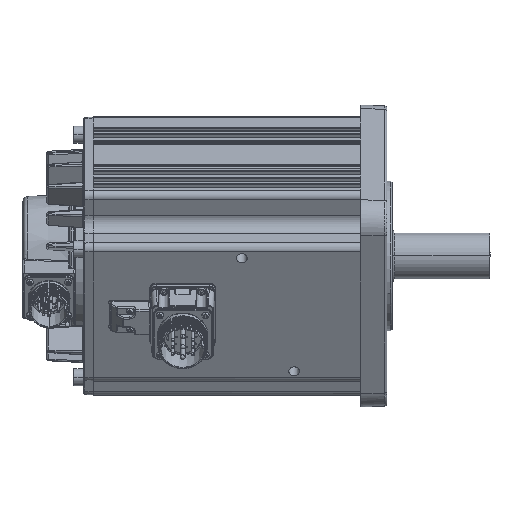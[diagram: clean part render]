
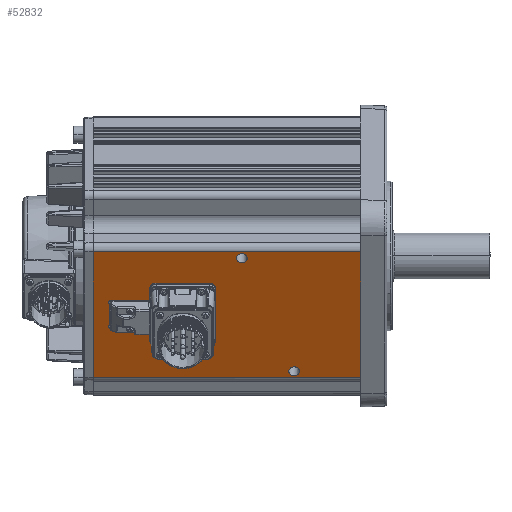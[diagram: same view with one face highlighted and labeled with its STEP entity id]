
A CAD part, left-side view. The second image highlights one B-rep face of the part: STEP entity #52832.
In plain terms, the highlighted planar face has unit normal (-0.866, 0, -0.5).
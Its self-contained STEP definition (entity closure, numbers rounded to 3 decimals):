
#2545=DIRECTION('',(0.5,0.,-0.866));
#2546=VECTOR('',#2545,111.4);
#2547=CARTESIAN_POINT('',(-105.792,-84.55,
79.871));
#2548=LINE('',#2547,#2546);
#2549=DIRECTION('',(-0.5,0.,0.866));
#2550=VECTOR('',#2549,111.407);
#2551=CARTESIAN_POINT('',(-50.091,120.25,
-16.607));
#2552=LINE('',#2551,#2550);
#2553=CARTESIAN_POINT('',(-52.942,-33.55,-11.667));
#2554=DIRECTION('',(-0.866,0.,-0.5));
#2555=DIRECTION('',(0.,1.,0.));
#2556=AXIS2_PLACEMENT_3D('',#2553,#2554,#2555);
#2558=CARTESIAN_POINT('',(-52.942,-33.55,-11.667));
#2559=DIRECTION('',(-0.866,0.,-0.5));
#2560=DIRECTION('',(0.,-1.,0.));
#2561=AXIS2_PLACEMENT_3D('',#2558,#2559,#2560);
#2563=CARTESIAN_POINT('',(-102.942,6.45,74.935));
#2564=DIRECTION('',(-0.866,0.,-0.5));
#2565=DIRECTION('',(0.,1.,0.));
#2566=AXIS2_PLACEMENT_3D('',#2563,#2564,#2565);
#2568=CARTESIAN_POINT('',(-102.942,6.45,74.935));
#2569=DIRECTION('',(-0.866,0.,-0.5));
#2570=DIRECTION('',(0.,-1.,0.));
#2571=AXIS2_PLACEMENT_3D('',#2568,#2569,#2570);
#2573=DIRECTION('',(0.5,0.,-0.866));
#2574=VECTOR('',#2573,19.293);
#2575=CARTESIAN_POINT('',(-82.766,108.09,39.988));
#2576=LINE('',#2575,#2574);
#2577=CARTESIAN_POINT('',(-72.592,106.39,22.367));
#2578=DIRECTION('',(-0.866,0.,-0.5));
#2579=DIRECTION('',(-0.263,0.85,0.456));
#2580=AXIS2_PLACEMENT_3D('',#2577,#2578,#2579);
#2582=DIRECTION('',(0.,-1.,0.));
#2583=VECTOR('',#2582,29.34);
#2584=CARTESIAN_POINT('',(-71.592,106.39,20.635));
#2585=LINE('',#2584,#2583);
#2586=DIRECTION('',(0.5,0.,-0.866));
#2587=VECTOR('',#2586,10.3);
#2588=CARTESIAN_POINT('',(-71.592,77.05,20.635));
#2589=LINE('',#2588,#2587);
#2590=CARTESIAN_POINT('',(-66.442,72.2,11.715));
#2591=DIRECTION('',(-0.866,0.,-0.5));
#2592=DIRECTION('',(0.,1.,0.));
#2593=AXIS2_PLACEMENT_3D('',#2590,#2591,#2592);
#2595=DIRECTION('',(0.,-1.,0.));
#2596=VECTOR('',#2595,40.9);
#2597=CARTESIAN_POINT('',(-64.017,72.2,7.515));
#2598=LINE('',#2597,#2596);
#2599=CARTESIAN_POINT('',(-66.442,31.3,11.715));
#2600=DIRECTION('',(-0.866,0.,-0.5));
#2601=DIRECTION('',(0.5,0.,-0.866));
#2602=AXIS2_PLACEMENT_3D('',#2599,#2600,#2601);
#2604=DIRECTION('',(-0.5,0.,0.866));
#2605=VECTOR('',#2604,46.);
#2606=CARTESIAN_POINT('',(-66.442,26.45,11.715));
#2607=LINE('',#2606,#2605);
#2608=CARTESIAN_POINT('',(-89.442,31.3,51.552));
#2609=DIRECTION('',(-0.866,0.,-0.5));
#2610=DIRECTION('',(0.,-1.,0.));
#2611=AXIS2_PLACEMENT_3D('',#2608,#2609,#2610);
#2613=DIRECTION('',(0.,1.,0.));
#2614=VECTOR('',#2613,40.9);
#2615=CARTESIAN_POINT('',(-91.867,31.3,55.753));
#2616=LINE('',#2615,#2614);
#2617=CARTESIAN_POINT('',(-89.442,72.2,51.552));
#2618=DIRECTION('',(-0.866,0.,-0.5));
#2619=DIRECTION('',(-0.5,0.,0.866));
#2620=AXIS2_PLACEMENT_3D('',#2617,#2618,#2619);
#2622=DIRECTION('',(0.5,0.,-0.866));
#2623=VECTOR('',#2622,10.3);
#2624=CARTESIAN_POINT('',(-89.442,77.05,51.552));
#2625=LINE('',#2624,#2623);
#2626=DIRECTION('',(0.,1.,0.));
#2627=VECTOR('',#2626,29.34);
#2628=CARTESIAN_POINT('',(-84.292,77.05,42.632));
#2629=LINE('',#2628,#2627);
#2630=CARTESIAN_POINT('',(-83.292,106.39,40.9));
#2631=DIRECTION('',(-0.866,0.,-0.5));
#2632=DIRECTION('',(-0.5,0.,0.866));
#2633=AXIS2_PLACEMENT_3D('',#2630,#2631,#2632);
#2635=CARTESIAN_POINT('',(-105.794,120.25,79.874));
#2654=DIRECTION('',(0.,1.,0.));
#2655=VECTOR('',#2654,204.8);
#2656=CARTESIAN_POINT('',(-105.792,-84.55,
79.871));
#2657=LINE('',#2656,#2655);
#2692=DIRECTION('',(0.,-1.,0.));
#2693=VECTOR('',#2692,204.8);
#2694=CARTESIAN_POINT('',(-50.091,120.25,
-16.607));
#2695=LINE('',#2694,#2693);
#44327=CARTESIAN_POINT('',(-52.942,-29.55,-11.667));
#44328=CARTESIAN_POINT('',(-52.942,-37.55,-11.667));
#44329=VERTEX_POINT('',#44327);
#44330=VERTEX_POINT('',#44328);
#44331=CARTESIAN_POINT('',(-102.942,10.45,74.935));
#44332=CARTESIAN_POINT('',(-102.942,2.45,74.935));
#44333=VERTEX_POINT('',#44331);
#44334=VERTEX_POINT('',#44332);
#44335=CARTESIAN_POINT('',(-82.766,108.09,39.988));
#44336=CARTESIAN_POINT('',(-73.119,108.09,23.28));
#44337=VERTEX_POINT('',#44335);
#44338=VERTEX_POINT('',#44336);
#44339=CARTESIAN_POINT('',(-71.592,106.39,20.635));
#44340=VERTEX_POINT('',#44339);
#44341=CARTESIAN_POINT('',(-71.592,77.05,20.635));
#44342=VERTEX_POINT('',#44341);
#44343=CARTESIAN_POINT('',(-66.442,77.05,11.715));
#44344=VERTEX_POINT('',#44343);
#44345=CARTESIAN_POINT('',(-64.017,72.2,7.515));
#44346=VERTEX_POINT('',#44345);
#44347=CARTESIAN_POINT('',(-64.017,31.3,7.515));
#44348=VERTEX_POINT('',#44347);
#44349=CARTESIAN_POINT('',(-66.442,26.45,11.715));
#44350=VERTEX_POINT('',#44349);
#44351=CARTESIAN_POINT('',(-89.442,26.45,51.552));
#44352=VERTEX_POINT('',#44351);
#44353=CARTESIAN_POINT('',(-91.867,31.3,55.753));
#44354=VERTEX_POINT('',#44353);
#44355=CARTESIAN_POINT('',(-91.867,72.2,55.753));
#44356=VERTEX_POINT('',#44355);
#44357=CARTESIAN_POINT('',(-89.442,77.05,51.552));
#44358=VERTEX_POINT('',#44357);
#44359=CARTESIAN_POINT('',(-84.292,77.05,42.632));
#44360=VERTEX_POINT('',#44359);
#44361=CARTESIAN_POINT('',(-84.292,106.39,42.632));
#44362=VERTEX_POINT('',#44361);
#48089=CARTESIAN_POINT('',(-105.792,-84.55,
79.871));
#48090=CARTESIAN_POINT('',(-50.092,-84.55,
-16.604));
#48091=VERTEX_POINT('',#48089);
#48092=VERTEX_POINT('',#48090);
#49313=VERTEX_POINT('',#2635);
#49314=CARTESIAN_POINT('',(-50.091,120.25,
-16.607));
#49315=VERTEX_POINT('',#49314);
#52776=CARTESIAN_POINT('',(-32.942,-84.55,-46.308));
#52777=DIRECTION('',(-0.866,0.,-0.5));
#52778=DIRECTION('',(-0.5,0.,0.866));
#52779=AXIS2_PLACEMENT_3D('',#52776,#52777,#52778);
#52780=PLANE('',#52779);
#52782=ORIENTED_EDGE('',*,*,#52781,.F.);
#52784=ORIENTED_EDGE('',*,*,#52783,.T.);
#52786=ORIENTED_EDGE('',*,*,#52785,.F.);
#52788=ORIENTED_EDGE('',*,*,#52787,.T.);
#52789=EDGE_LOOP('',(#52782,#52784,#52786,#52788));
#52790=FACE_OUTER_BOUND('',#52789,.F.);
#52792=ORIENTED_EDGE('',*,*,#52791,.T.);
#52794=ORIENTED_EDGE('',*,*,#52793,.T.);
#52795=EDGE_LOOP('',(#52792,#52794));
#52796=FACE_BOUND('',#52795,.F.);
#52798=ORIENTED_EDGE('',*,*,#52797,.T.);
#52800=ORIENTED_EDGE('',*,*,#52799,.T.);
#52801=EDGE_LOOP('',(#52798,#52800));
#52802=FACE_BOUND('',#52801,.F.);
#52803=ORIENTED_EDGE('',*,*,#52759,.T.);
#52805=ORIENTED_EDGE('',*,*,#52804,.T.);
#52807=ORIENTED_EDGE('',*,*,#52806,.T.);
#52809=ORIENTED_EDGE('',*,*,#52808,.T.);
#52811=ORIENTED_EDGE('',*,*,#52810,.T.);
#52813=ORIENTED_EDGE('',*,*,#52812,.T.);
#52815=ORIENTED_EDGE('',*,*,#52814,.T.);
#52817=ORIENTED_EDGE('',*,*,#52816,.T.);
#52819=ORIENTED_EDGE('',*,*,#52818,.T.);
#52821=ORIENTED_EDGE('',*,*,#52820,.T.);
#52823=ORIENTED_EDGE('',*,*,#52822,.T.);
#52825=ORIENTED_EDGE('',*,*,#52824,.T.);
#52827=ORIENTED_EDGE('',*,*,#52826,.T.);
#52829=ORIENTED_EDGE('',*,*,#52828,.T.);
#52830=EDGE_LOOP('',(#52803,#52805,#52807,#52809,#52811,#52813,#52815,#52817,
#52819,#52821,#52823,#52825,#52827,#52829));
#52831=FACE_BOUND('',#52830,.F.);
#52832=ADVANCED_FACE('',(#52790,#52796,#52802,#52831),#52780,.T.);
#2557=CIRCLE('',#2556,4.);
#2562=CIRCLE('',#2561,4.);
#2567=CIRCLE('',#2566,4.);
#2572=CIRCLE('',#2571,4.);
#2581=CIRCLE('',#2580,2.);
#2594=CIRCLE('',#2593,4.85);
#2603=CIRCLE('',#2602,4.85);
#2612=CIRCLE('',#2611,4.85);
#2621=CIRCLE('',#2620,4.85);
#2634=CIRCLE('',#2633,2.);
#52759=EDGE_CURVE('',#44337,#44338,#2576,.T.);
#52781=EDGE_CURVE('',#48091,#49313,#2657,.T.);
#52783=EDGE_CURVE('',#48091,#48092,#2548,.T.);
#52785=EDGE_CURVE('',#49315,#48092,#2695,.T.);
#52787=EDGE_CURVE('',#49315,#49313,#2552,.T.);
#52791=EDGE_CURVE('',#44329,#44330,#2557,.T.);
#52793=EDGE_CURVE('',#44330,#44329,#2562,.T.);
#52797=EDGE_CURVE('',#44333,#44334,#2567,.T.);
#52799=EDGE_CURVE('',#44334,#44333,#2572,.T.);
#52804=EDGE_CURVE('',#44338,#44340,#2581,.T.);
#52806=EDGE_CURVE('',#44340,#44342,#2585,.T.);
#52808=EDGE_CURVE('',#44342,#44344,#2589,.T.);
#52810=EDGE_CURVE('',#44344,#44346,#2594,.T.);
#52812=EDGE_CURVE('',#44346,#44348,#2598,.T.);
#52814=EDGE_CURVE('',#44348,#44350,#2603,.T.);
#52816=EDGE_CURVE('',#44350,#44352,#2607,.T.);
#52818=EDGE_CURVE('',#44352,#44354,#2612,.T.);
#52820=EDGE_CURVE('',#44354,#44356,#2616,.T.);
#52822=EDGE_CURVE('',#44356,#44358,#2621,.T.);
#52824=EDGE_CURVE('',#44358,#44360,#2625,.T.);
#52826=EDGE_CURVE('',#44360,#44362,#2629,.T.);
#52828=EDGE_CURVE('',#44362,#44337,#2634,.T.);
